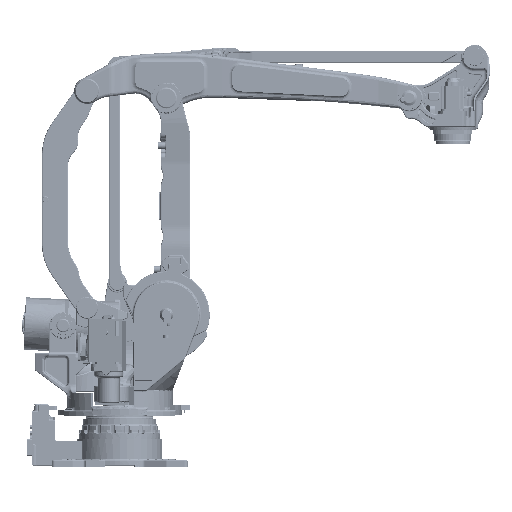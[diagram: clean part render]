
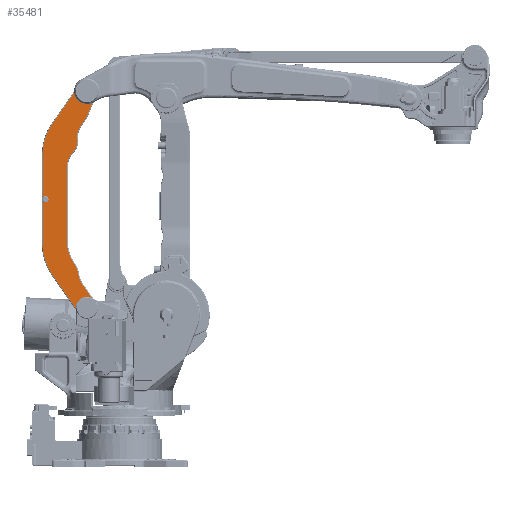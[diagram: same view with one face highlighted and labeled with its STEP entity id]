
A CAD part, front view. The second image highlights one B-rep face of the part: STEP entity #35481.
In plain terms, the highlighted planar face has unit normal (0, -1, 0).
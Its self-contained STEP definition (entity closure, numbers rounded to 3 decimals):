
#21730=LINE('',#284949,#28365);
#21731=LINE('',#284953,#28366);
#21732=LINE('',#284954,#28367);
#21733=LINE('',#284958,#28368);
#21734=LINE('',#284962,#28369);
#21735=LINE('',#284966,#28370);
#21736=LINE('',#284976,#28371);
#21737=LINE('',#284980,#28372);
#21738=LINE('',#284984,#28373);
#21739=LINE('',#284988,#28374);
#28365=VECTOR('',#174385,1.);
#28366=VECTOR('',#174388,1.);
#28367=VECTOR('',#174389,1.);
#28368=VECTOR('',#174392,1.);
#28369=VECTOR('',#174395,1.);
#28370=VECTOR('',#174398,1.);
#28371=VECTOR('',#174407,1.);
#28372=VECTOR('',#174410,1.);
#28373=VECTOR('',#174413,1.);
#28374=VECTOR('',#174416,1.);
#35481=ADVANCED_FACE('',(#44974),#39569,.F.);
#39569=PLANE('',#145648);
#44974=FACE_OUTER_BOUND('',#52889,.T.);
#52889=EDGE_LOOP('',(#81678,#81679,#81680,#81681,#81682,#81683,#81684,#81685,
#81686,#81687,#81688,#81689,#81690,#81691,#81692,#81693,#81694,#81695,#81696,
#81697,#81698,#81699,#81700,#81701));
#81678=ORIENTED_EDGE('',*,*,#120854,.T.);
#81679=ORIENTED_EDGE('',*,*,#120855,.T.);
#81680=ORIENTED_EDGE('',*,*,#120856,.F.);
#81681=ORIENTED_EDGE('',*,*,#120857,.T.);
#81682=ORIENTED_EDGE('',*,*,#120858,.T.);
#81683=ORIENTED_EDGE('',*,*,#120853,.T.);
#81684=ORIENTED_EDGE('',*,*,#120859,.T.);
#81685=ORIENTED_EDGE('',*,*,#120860,.T.);
#81686=ORIENTED_EDGE('',*,*,#120861,.T.);
#81687=ORIENTED_EDGE('',*,*,#120862,.T.);
#81688=ORIENTED_EDGE('',*,*,#120863,.T.);
#81689=ORIENTED_EDGE('',*,*,#120864,.T.);
#81690=ORIENTED_EDGE('',*,*,#120865,.F.);
#81691=ORIENTED_EDGE('',*,*,#120866,.T.);
#81692=ORIENTED_EDGE('',*,*,#120867,.T.);
#81693=ORIENTED_EDGE('',*,*,#120868,.T.);
#81694=ORIENTED_EDGE('',*,*,#120869,.T.);
#81695=ORIENTED_EDGE('',*,*,#120870,.T.);
#81696=ORIENTED_EDGE('',*,*,#120871,.T.);
#81697=ORIENTED_EDGE('',*,*,#120872,.T.);
#81698=ORIENTED_EDGE('',*,*,#120873,.T.);
#81699=ORIENTED_EDGE('',*,*,#120874,.T.);
#81700=ORIENTED_EDGE('',*,*,#120875,.T.);
#81701=ORIENTED_EDGE('',*,*,#120876,.F.);
#103680=VERTEX_POINT('',#284932);
#103683=VERTEX_POINT('',#284941);
#103684=VERTEX_POINT('',#284945);
#103685=VERTEX_POINT('',#284946);
#103686=VERTEX_POINT('',#284948);
#103687=VERTEX_POINT('',#284950);
#103688=VERTEX_POINT('',#284952);
#103689=VERTEX_POINT('',#284955);
#103690=VERTEX_POINT('',#284957);
#103691=VERTEX_POINT('',#284959);
#103692=VERTEX_POINT('',#284961);
#103693=VERTEX_POINT('',#284963);
#103694=VERTEX_POINT('',#284965);
#103695=VERTEX_POINT('',#284967);
#103696=VERTEX_POINT('',#284969);
#103697=VERTEX_POINT('',#284971);
#103698=VERTEX_POINT('',#284973);
#103699=VERTEX_POINT('',#284975);
#103700=VERTEX_POINT('',#284977);
#103701=VERTEX_POINT('',#284979);
#103702=VERTEX_POINT('',#284981);
#103703=VERTEX_POINT('',#284983);
#103704=VERTEX_POINT('',#284985);
#103705=VERTEX_POINT('',#284987);
#120853=EDGE_CURVE('',#103680,#103683,#133171,.T.);
#120854=EDGE_CURVE('',#103684,#103685,#133172,.T.);
#120855=EDGE_CURVE('',#103685,#103686,#133173,.T.);
#120856=EDGE_CURVE('',#103687,#103686,#21730,.T.);
#120857=EDGE_CURVE('',#103687,#103688,#133174,.T.);
#120858=EDGE_CURVE('',#103688,#103680,#21731,.T.);
#120859=EDGE_CURVE('',#103683,#103689,#21732,.T.);
#120860=EDGE_CURVE('',#103689,#103690,#133175,.T.);
#120861=EDGE_CURVE('',#103690,#103691,#21733,.T.);
#120862=EDGE_CURVE('',#103691,#103692,#133176,.T.);
#120863=EDGE_CURVE('',#103692,#103693,#21734,.T.);
#120864=EDGE_CURVE('',#103693,#103694,#133177,.T.);
#120865=EDGE_CURVE('',#103695,#103694,#21735,.T.);
#120866=EDGE_CURVE('',#103695,#103696,#133178,.T.);
#120867=EDGE_CURVE('',#103696,#103697,#133179,.T.);
#120868=EDGE_CURVE('',#103697,#103698,#133180,.T.);
#120869=EDGE_CURVE('',#103698,#103699,#133181,.T.);
#120870=EDGE_CURVE('',#103699,#103700,#21736,.T.);
#120871=EDGE_CURVE('',#103700,#103701,#133182,.T.);
#120872=EDGE_CURVE('',#103701,#103702,#21737,.T.);
#120873=EDGE_CURVE('',#103702,#103703,#133183,.T.);
#120874=EDGE_CURVE('',#103703,#103704,#21738,.T.);
#120875=EDGE_CURVE('',#103704,#103705,#133184,.T.);
#120876=EDGE_CURVE('',#103684,#103705,#21739,.T.);
#133171=CIRCLE('',#145633,64.);
#133172=CIRCLE('',#145635,18.);
#133173=CIRCLE('',#145636,18.);
#133174=CIRCLE('',#145637,305.);
#133175=CIRCLE('',#145638,105.);
#133176=CIRCLE('',#145639,95.);
#133177=CIRCLE('',#145640,205.);
#133178=CIRCLE('',#145641,105.);
#133179=CIRCLE('',#145642,95.);
#133180=CIRCLE('',#145643,95.);
#133181=CIRCLE('',#145644,105.);
#133182=CIRCLE('',#145645,95.);
#133183=CIRCLE('',#145646,64.);
#133184=CIRCLE('',#145647,305.);
#145633=AXIS2_PLACEMENT_3D('',#284942,#174377,#174378);
#145635=AXIS2_PLACEMENT_3D('',#284944,#174381,#174382);
#145636=AXIS2_PLACEMENT_3D('',#284947,#174383,#174384);
#145637=AXIS2_PLACEMENT_3D('',#284951,#174386,#174387);
#145638=AXIS2_PLACEMENT_3D('',#284956,#174390,#174391);
#145639=AXIS2_PLACEMENT_3D('',#284960,#174393,#174394);
#145640=AXIS2_PLACEMENT_3D('',#284964,#174396,#174397);
#145641=AXIS2_PLACEMENT_3D('',#284968,#174399,#174400);
#145642=AXIS2_PLACEMENT_3D('',#284970,#174401,#174402);
#145643=AXIS2_PLACEMENT_3D('',#284972,#174403,#174404);
#145644=AXIS2_PLACEMENT_3D('',#284974,#174405,#174406);
#145645=AXIS2_PLACEMENT_3D('',#284978,#174408,#174409);
#145646=AXIS2_PLACEMENT_3D('',#284982,#174411,#174412);
#145647=AXIS2_PLACEMENT_3D('',#284986,#174414,#174415);
#145648=AXIS2_PLACEMENT_3D('',#284989,#174417,#174418);
#174377=DIRECTION('',(0.,1.,0.));
#174378=DIRECTION('',(-0.997,0.,-0.074));
#174381=DIRECTION('',(0.,1.,0.));
#174382=DIRECTION('',(-0.833,0.,0.553));
#174383=DIRECTION('',(0.,1.,0.));
#174384=DIRECTION('',(1.,0.,0.));
#174385=DIRECTION('',(0.,0.,1.));
#174386=DIRECTION('',(0.,-1.,0.));
#174387=DIRECTION('',(-1.,0.,0.));
#174388=DIRECTION('',(0.574,0.,-0.819));
#174389=DIRECTION('',(-0.574,0.,0.819));
#174390=DIRECTION('',(0.,1.,0.));
#174391=DIRECTION('',(-0.819,0.,-0.574));
#174392=DIRECTION('',(-0.228,0.,0.974));
#174393=DIRECTION('',(0.,-1.,0.));
#174394=DIRECTION('',(0.974,0.,0.228));
#174395=DIRECTION('',(-0.574,0.,0.819));
#174396=DIRECTION('',(0.,1.,0.));
#174397=DIRECTION('',(-0.819,0.,-0.574));
#174398=DIRECTION('',(0.,0.,-1.));
#174399=DIRECTION('',(0.,1.,0.));
#174400=DIRECTION('',(-1.,0.,0.));
#174401=DIRECTION('',(0.,-1.,0.));
#174402=DIRECTION('',(0.7,0.,-0.714));
#174403=DIRECTION('',(0.,-1.,0.));
#174404=DIRECTION('',(1.,0.,0.));
#174405=DIRECTION('',(0.,1.,0.));
#174406=DIRECTION('',(-0.992,0.,-0.125));
#174407=DIRECTION('',(0.574,0.,0.819));
#174408=DIRECTION('',(0.,-1.,0.));
#174409=DIRECTION('',(0.819,0.,-0.574));
#174410=DIRECTION('',(0.382,0.,0.924));
#174411=DIRECTION('',(0.,1.,0.));
#174412=DIRECTION('',(0.599,0.,-0.801));
#174413=DIRECTION('',(-0.574,0.,-0.819));
#174414=DIRECTION('',(0.,-1.,0.));
#174415=DIRECTION('',(-0.819,0.,0.574));
#174416=DIRECTION('',(0.,0.,1.));
#174417=DIRECTION('',(0.,1.,0.));
#174418=DIRECTION('',(1.,0.,0.));
#284932=CARTESIAN_POINT('',(-252.074,-113.5,915.353));
#284941=CARTESIAN_POINT('',(-161.967,-113.5,978.446));
#284942=CARTESIAN_POINT('',(-188.25,-113.5,920.092));
#284944=CARTESIAN_POINT('',(-428.25,-113.5,1545.092));
#284945=CARTESIAN_POINT('',(-443.25,-113.5,1555.042));
#284946=CARTESIAN_POINT('',(-410.25,-113.5,1545.092));
#284947=CARTESIAN_POINT('',(-428.25,-113.5,1545.092));
#284948=CARTESIAN_POINT('',(-443.25,-113.5,1535.142));
#284949=CARTESIAN_POINT('',(-443.25,-113.5,1284.546));
#284950=CARTESIAN_POINT('',(-443.25,-113.5,1284.546));
#284951=CARTESIAN_POINT('',(-138.25,-113.5,1284.546));
#284952=CARTESIAN_POINT('',(-388.091,-113.5,1109.605));
#284953=CARTESIAN_POINT('',(-388.091,-113.5,1109.605));
#284954=CARTESIAN_POINT('',(-161.967,-113.5,978.446));
#284955=CARTESIAN_POINT('',(-218.187,-113.5,1058.736));
#284956=CARTESIAN_POINT('',(-132.176,-113.5,1118.961));
#284957=CARTESIAN_POINT('',(-234.402,-113.5,1094.987));
#284958=CARTESIAN_POINT('',(-234.402,-113.5,1094.987));
#284959=CARTESIAN_POINT('',(-244.051,-113.5,1136.132));
#284960=CARTESIAN_POINT('',(-336.542,-113.5,1114.441));
#284961=CARTESIAN_POINT('',(-258.722,-113.5,1168.93));
#284962=CARTESIAN_POINT('',(-258.722,-113.5,1168.93));
#284963=CARTESIAN_POINT('',(-266.176,-113.5,1179.575));
#284964=CARTESIAN_POINT('',(-98.25,-113.5,1297.158));
#284965=CARTESIAN_POINT('',(-303.25,-113.5,1297.158));
#284966=CARTESIAN_POINT('',(-303.25,-113.5,1740.263));
#284967=CARTESIAN_POINT('',(-303.25,-113.5,1740.263));
#284968=CARTESIAN_POINT('',(-198.25,-113.5,1740.263));
#284969=CARTESIAN_POINT('',(-271.75,-113.5,1815.248));
#284970=CARTESIAN_POINT('',(-338.25,-113.5,1883.092));
#284971=CARTESIAN_POINT('',(-243.25,-113.5,1883.092));
#284972=CARTESIAN_POINT('',(-338.25,-113.5,1883.092));
#284973=CARTESIAN_POINT('',(-243.99,-113.5,1894.931));
#284974=CARTESIAN_POINT('',(-139.809,-113.5,1908.017));
#284975=CARTESIAN_POINT('',(-225.82,-113.5,1968.243));
#284976=CARTESIAN_POINT('',(-225.82,-113.5,1968.243));
#284977=CARTESIAN_POINT('',(-198.636,-113.5,2007.065));
#284978=CARTESIAN_POINT('',(-276.456,-113.5,2061.554));
#284979=CARTESIAN_POINT('',(-188.676,-113.5,2025.228));
#284980=CARTESIAN_POINT('',(-188.676,-113.5,2025.228));
#284981=CARTESIAN_POINT('',(-149.943,-113.5,2118.821));
#284982=CARTESIAN_POINT('',(-188.25,-113.5,2170.092));
#284983=CARTESIAN_POINT('',(-252.074,-113.5,2174.831));
#284984=CARTESIAN_POINT('',(-252.074,-113.5,2174.831));
#284985=CARTESIAN_POINT('',(-388.091,-113.5,1980.578));
#284986=CARTESIAN_POINT('',(-138.25,-113.5,1805.637));
#284987=CARTESIAN_POINT('',(-443.25,-113.5,1805.637));
#284988=CARTESIAN_POINT('',(-443.25,-113.5,1555.042));
#284989=CARTESIAN_POINT('',(-188.25,-113.5,920.092));
